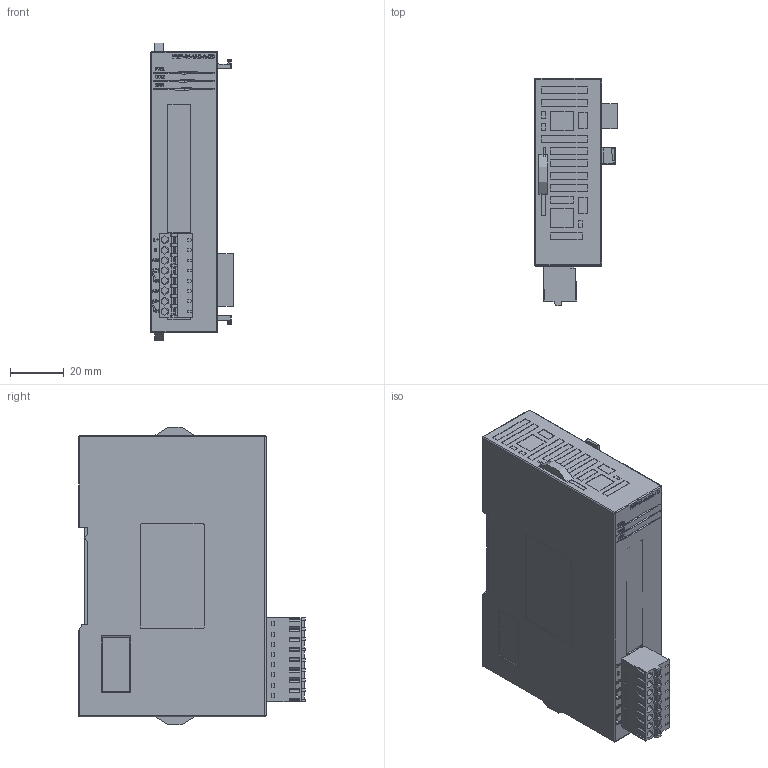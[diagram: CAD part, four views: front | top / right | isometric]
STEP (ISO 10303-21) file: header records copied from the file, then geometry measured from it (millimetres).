
FILE_DESCRIPTION(('STEP AP242'), '1');
FILE_NAME('PMP-01-4AD-A-ED', '', ('UNSPECIFIED'), ('UNSPECIFIED'), 'C3D Converter', 'C3D Toolkit', '');
FILE_SCHEMA(('AP242_MANAGED_MODEL_BASED_3D_ENGINEERING_MIM_LF { 1 0 10303 442 1 1 4 }'));
Length unit declared in the file: millimetre
Products named in the file (1): PMP-01-4AD-A-ED
Bounding box: 30.8 x 84.71 x 110.91 mm (x, y, z)
Surface area: 29150.9 mm2
Topology: 15 solids, 32 shells, 1313 faces, 3519 edges, 2348 vertices
Faces by surface type: plane 995, bspline 148, cylinder 86, extrusion 84
Full cylindrical faces by diameter (mm): 3 x8
Entity records: 63198 total; most frequent: CARTESIAN_POINT 21041, ORIENTED_EDGE 6916, DIRECTION 5349, EDGE_CURVE 3510, VECTOR 2759, LINE 2675, VERTEX_POINT 2348, EDGE_LOOP 1478
